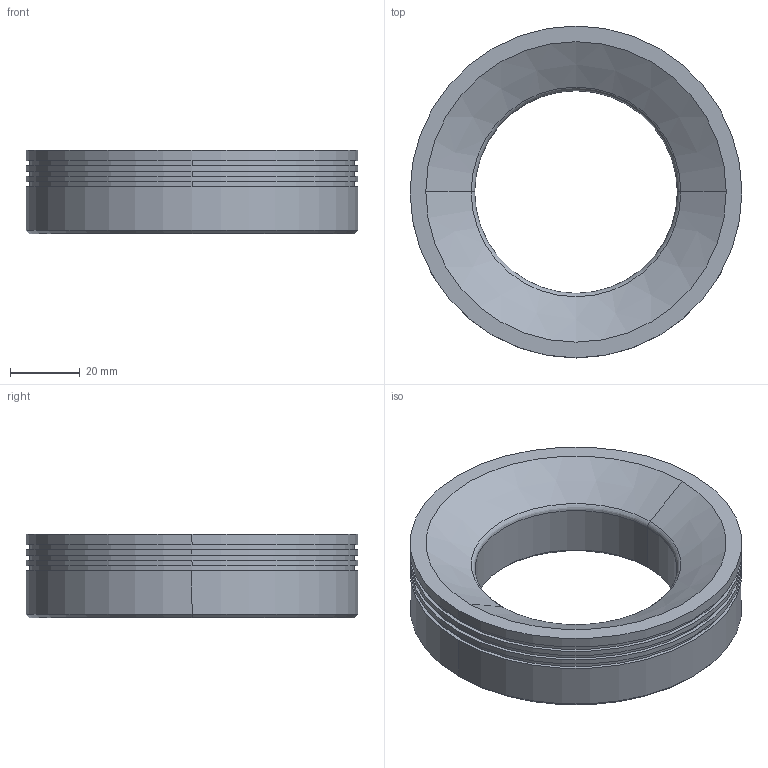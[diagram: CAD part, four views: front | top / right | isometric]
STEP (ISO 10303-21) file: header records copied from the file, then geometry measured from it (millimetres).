
FILE_DESCRIPTION((''),'2;1');
FILE_NAME('DRL7030','2020-03-28T',('ASUS'),(''),'PRO/ENGINEER BY PARAMETRIC TECHNOLOGY CORPORATION, 2008380','PRO/ENGINEER BY PARAMETRIC TECHNOLOGY CORPORATION, 2008380','');
FILE_SCHEMA(('CONFIG_CONTROL_DESIGN'));
Length unit declared in the file: millimetre
Products named in the file (1): DRL7030
Bounding box: 95 x 95 x 24 mm (x, y, z)
Volume: 92967.2 mm3; surface area: 21313.1 mm2
Topology: 1 solids, 5 shells, 68 faces, 152 edges, 92 vertices
Faces by surface type: cylinder 32, cone 22, plane 12, torus 2
Entity records: 1901 total; most frequent: DIRECTION 372, CARTESIAN_POINT 305, ORIENTED_EDGE 272, AXIS2_PLACEMENT_3D 159, EDGE_CURVE 144, VERTEX_POINT 92, CIRCLE 90, EDGE_LOOP 84
